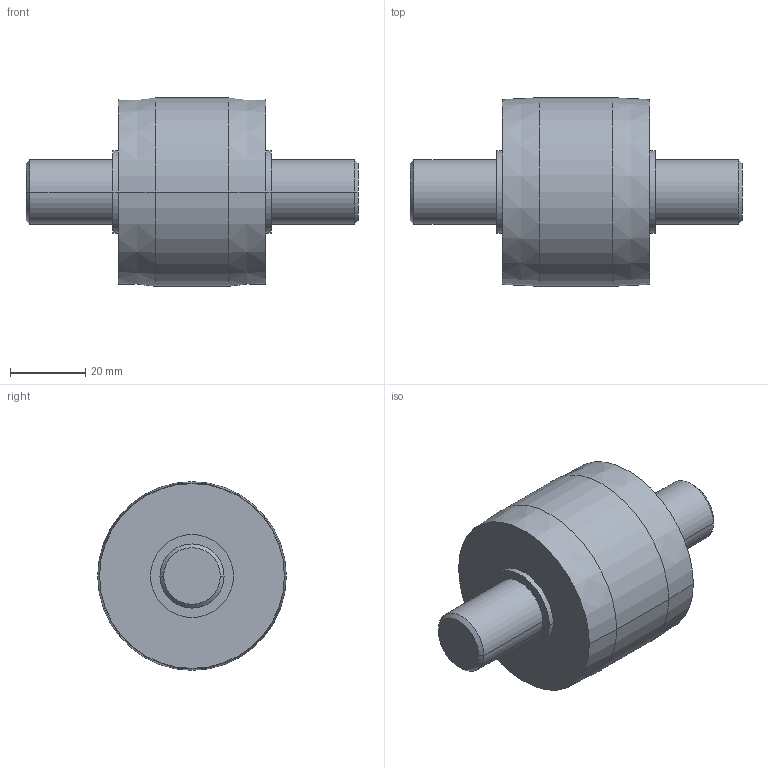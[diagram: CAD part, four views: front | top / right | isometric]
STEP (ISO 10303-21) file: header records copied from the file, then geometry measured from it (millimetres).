
FILE_DESCRIPTION (( 'STEP AP203' ), '1' );
FILE_NAME ('084.815.111.STEP', '2013-01-29T13:00:40', ( 'Alusic' ), ( 'Alusic' ), 'SwSTEP 2.0', 'SolidWorks 2011', '' );
FILE_SCHEMA (( 'CONFIG_CONTROL_DESIGN' ));
Length unit declared in the file: millimetre
Products named in the file (1): 084.815.111
Bounding box: 88 x 50 x 50 mm (x, y, z)
Volume: 87345.8 mm3; surface area: 12469.8 mm2
Topology: 1 solids, 1 shells, 24 faces, 46 edges, 28 vertices
Faces by surface type: cylinder 10, cone 8, plane 6
Entity records: 691 total; most frequent: DIRECTION 124, CARTESIAN_POINT 99, ORIENTED_EDGE 92, AXIS2_PLACEMENT_3D 53, EDGE_CURVE 46, VERTEX_POINT 28, EDGE_LOOP 28, CIRCLE 28
